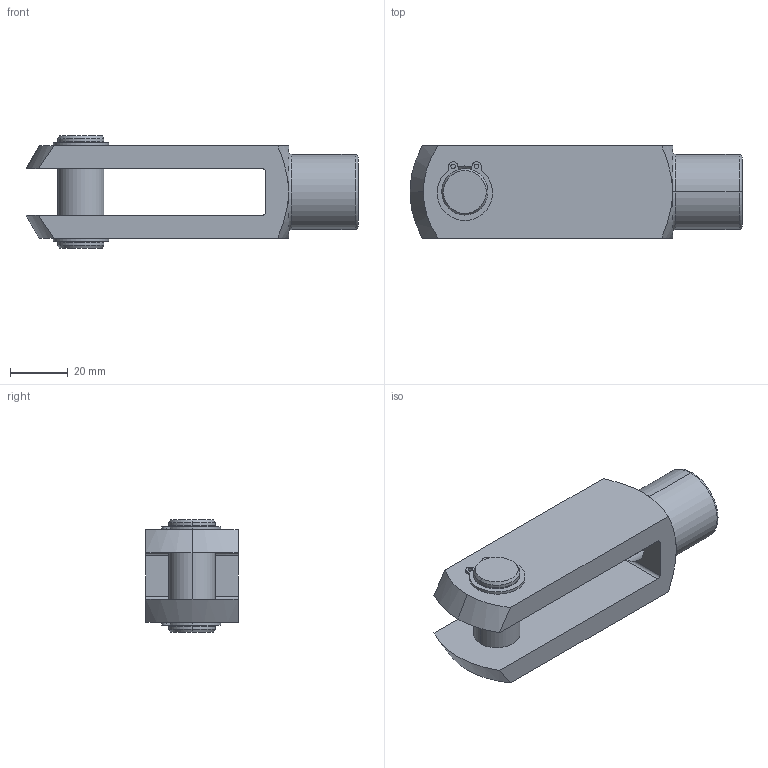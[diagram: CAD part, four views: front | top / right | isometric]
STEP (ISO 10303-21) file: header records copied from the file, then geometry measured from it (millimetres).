
FILE_DESCRIPTION (( 'STEP AP203' ), '1' );
FILE_NAME ('65616.W0167.step', '2014-01-18T10:33:41', ( 'User' ), ( '' ), 'SwSTEP 2.0', 'SolidWorks 2009', '' );
FILE_SCHEMA (( 'CONFIG_CONTROL_DESIGN' ));
Length unit declared in the file: millimetre
Products named in the file (4): 65616.W0167; Part1_65636.W0167; Part2_65666.W0016; Part3_65678.W0016
Assembly tree (4 placements, depth 2):
  65616.W0167
    Part3_65678.W0016  x2
    Part1_65636.W0167
    Part2_65666.W0016
Bounding box: 115 x 32 x 39 mm (x, y, z)
Volume: 59463.9 mm3; surface area: 21596.1 mm2
Topology: 4 solids, 4 shells, 95 faces, 227 edges, 144 vertices
Faces by surface type: cylinder 46, plane 28, cone 17, torus 4
Entity records: 2787 total; most frequent: CARTESIAN_POINT 519, DIRECTION 423, ORIENTED_EDGE 358, EDGE_CURVE 179, AXIS2_PLACEMENT_3D 176, VERTEX_POINT 112, CIRCLE 92, EDGE_LOOP 91
